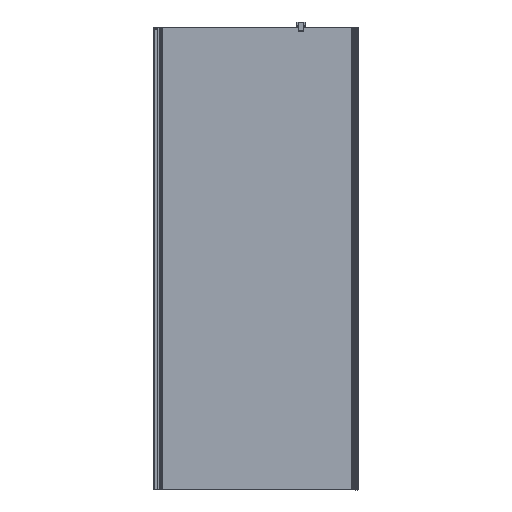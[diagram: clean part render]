
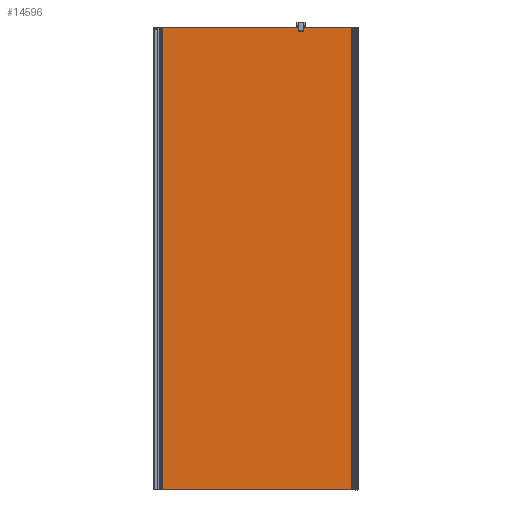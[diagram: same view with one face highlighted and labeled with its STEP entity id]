
A CAD part, top view. The second image highlights one B-rep face of the part: STEP entity #14596.
In plain terms, the highlighted planar face has unit normal (0, 0, 1).
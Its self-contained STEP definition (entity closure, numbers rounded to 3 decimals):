
#1533=FACE_OUTER_BOUND('',#2400,.T.);
#2400=EDGE_LOOP('',(#10469,#10470,#10471,#10472));
#3443=LINE('',#22315,#4846);
#3444=LINE('',#22318,#4847);
#3445=LINE('',#22320,#4848);
#3446=LINE('',#22321,#4849);
#4846=VECTOR('',#17780,10.);
#4847=VECTOR('',#17783,10.);
#4848=VECTOR('',#17784,10.);
#4849=VECTOR('',#17785,10.);
#6238=VERTEX_POINT('',#22311);
#6239=VERTEX_POINT('',#22313);
#6240=VERTEX_POINT('',#22317);
#6241=VERTEX_POINT('',#22319);
#7795=EDGE_CURVE('',#6238,#6239,#3443,.F.);
#7796=EDGE_CURVE('',#6240,#6238,#3444,.T.);
#7797=EDGE_CURVE('',#6241,#6239,#3445,.T.);
#7798=EDGE_CURVE('',#6240,#6241,#3446,.T.);
#10469=ORIENTED_EDGE('',*,*,#7796,.T.);
#10470=ORIENTED_EDGE('',*,*,#7795,.T.);
#10471=ORIENTED_EDGE('',*,*,#7797,.F.);
#10472=ORIENTED_EDGE('',*,*,#7798,.F.);
#14146=PLANE('',#15628);
#14596=ADVANCED_FACE('',(#1533),#14146,.T.);
#15628=AXIS2_PLACEMENT_3D('',#22316,#17781,#17782);
#17780=DIRECTION('',(0.,-1.,0.));
#17781=DIRECTION('center_axis',(0.,0.,
1.));
#17782=DIRECTION('ref_axis',(1.,0.,0.));
#17783=DIRECTION('',(1.,0.,0.));
#17784=DIRECTION('',(1.,0.,0.));
#17785=DIRECTION('',(0.,1.,0.));
#22311=CARTESIAN_POINT('',(116.75,0.,14.3));
#22313=CARTESIAN_POINT('',(116.75,2000.,14.3));
#22315=CARTESIAN_POINT('',(116.75,0.,14.3));
#22316=CARTESIAN_POINT('Origin',(-763.25,0.,14.3));
#22317=CARTESIAN_POINT('',(-763.25,0.,14.3));
#22318=CARTESIAN_POINT('',(-763.25,0.,14.3));
#22319=CARTESIAN_POINT('',(-763.25,2000.,14.3));
#22320=CARTESIAN_POINT('',(-763.25,2000.,14.3));
#22321=CARTESIAN_POINT('',(-763.25,0.,14.3));
